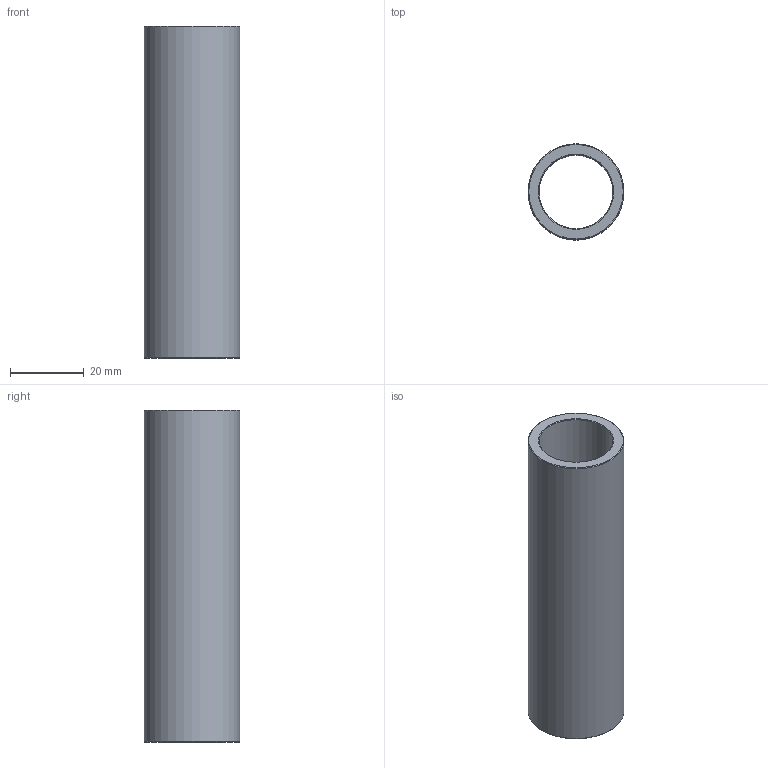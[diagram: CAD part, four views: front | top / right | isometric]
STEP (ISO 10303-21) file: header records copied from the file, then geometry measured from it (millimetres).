
FILE_DESCRIPTION(('STEP AP203'),'1');
FILE_NAME('C:/Users/Rodrigo/Desktop/GA3.020.090-1.step','2016-11-07T13:46:33',(' '),(' '),'Spatial InterOp 3D',' ',' ');
FILE_SCHEMA(('CONFIG_CONTROL_DESIGN'));
Length unit declared in the file: millimetre
Products named in the file (1): 1
Bounding box: 26 x 26 x 90 mm (x, y, z)
Volume: 19503.5 mm3; surface area: 13405.9 mm2
Topology: 1 solids, 1 shells, 8 faces, 14 edges, 8 vertices
Faces by surface type: cone 4, cylinder 2, plane 2
Full cylindrical faces by diameter (mm): 20 x1, 26 x1
Entity records: 212 total; most frequent: DIRECTION 34, CARTESIAN_POINT 25, AXIS2_PLACEMENT_3D 17, EDGE_LOOP 16, ORIENTED_EDGE 16, FACE_OUTER_BOUND 10, ADVANCED_FACE 8, EDGE_CURVE 8
